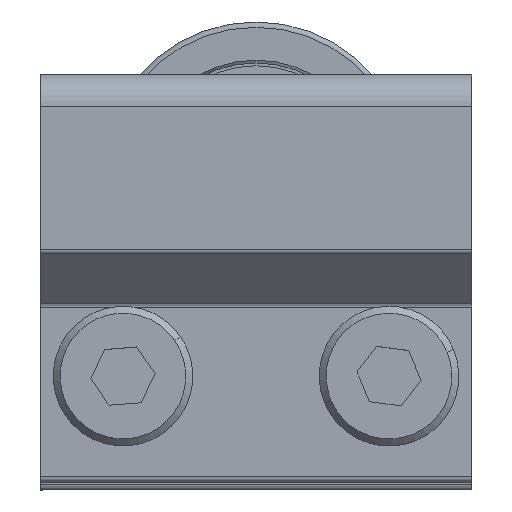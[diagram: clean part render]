
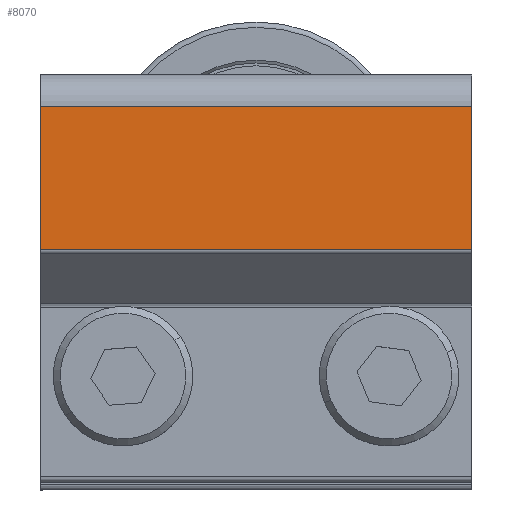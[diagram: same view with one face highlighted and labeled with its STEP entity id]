
A CAD part, top view. The second image highlights one B-rep face of the part: STEP entity #8070.
In plain terms, the highlighted planar face has unit normal (0, 0, 1) as drawn and (1, 0, 0) by its records, which use the part's own axes.
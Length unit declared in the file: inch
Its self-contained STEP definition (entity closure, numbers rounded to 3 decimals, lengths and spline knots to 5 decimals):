
#7560=DIRECTION('',(0.,0.,1.));
#7561=VECTOR('',#7560,1.216);
#7562=CARTESIAN_POINT('',(0.375,0.35921,-0.608));
#7563=LINE('',#7562,#7561);
#7564=DIRECTION('',(0.,-1.,0.));
#7565=VECTOR('',#7564,0.40379);
#7566=CARTESIAN_POINT('',(0.375,0.763,-0.608));
#7567=LINE('',#7566,#7565);
#7645=DIRECTION('',(0.,-1.,0.));
#7646=VECTOR('',#7645,0.40379);
#7647=CARTESIAN_POINT('',(0.375,0.763,0.608));
#7648=LINE('',#7647,#7646);
#7649=DIRECTION('',(0.,0.,-1.));
#7650=VECTOR('',#7649,1.216);
#7651=CARTESIAN_POINT('',(0.375,0.763,0.608));
#7652=LINE('',#7651,#7650);
#7845=CARTESIAN_POINT('',(0.375,0.763,0.608));
#7846=CARTESIAN_POINT('',(0.375,0.763,-0.608));
#7847=VERTEX_POINT('',#7845);
#7848=VERTEX_POINT('',#7846);
#7887=CARTESIAN_POINT('',(0.375,0.35921,0.608));
#7888=VERTEX_POINT('',#7887);
#7897=CARTESIAN_POINT('',(0.375,0.35921,-0.608));
#7898=VERTEX_POINT('',#7897);
#8058=CARTESIAN_POINT('',(0.375,0.763,0.608));
#8059=DIRECTION('',(-1.,0.,0.));
#8060=DIRECTION('',(0.,-1.,0.));
#8061=AXIS2_PLACEMENT_3D('',#8058,#8059,#8060);
#8062=PLANE('',#8061);
#8063=ORIENTED_EDGE('',*,*,#7975,.F.);
#8065=ORIENTED_EDGE('',*,*,#8064,.T.);
#8066=ORIENTED_EDGE('',*,*,#8016,.T.);
#8067=ORIENTED_EDGE('',*,*,#8006,.T.);
#8068=EDGE_LOOP('',(#8063,#8065,#8066,#8067));
#8069=FACE_OUTER_BOUND('',#8068,.F.);
#7975=EDGE_CURVE('',#7847,#7888,#7648,.T.);
#8006=EDGE_CURVE('',#7898,#7888,#7563,.T.);
#8016=EDGE_CURVE('',#7848,#7898,#7567,.T.);
#8064=EDGE_CURVE('',#7847,#7848,#7652,.T.);
#8070=ADVANCED_FACE('',(#8069),#8062,.F.);
